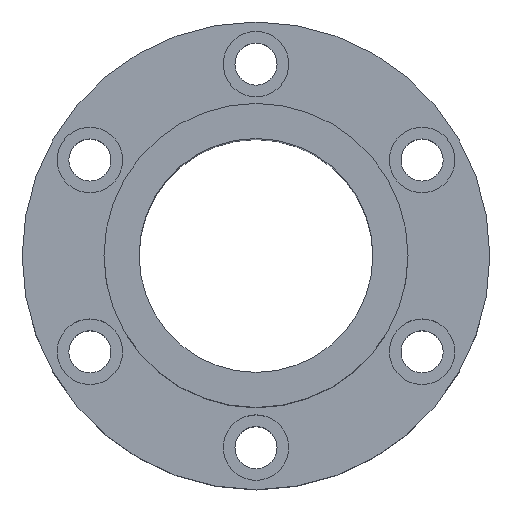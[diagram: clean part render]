
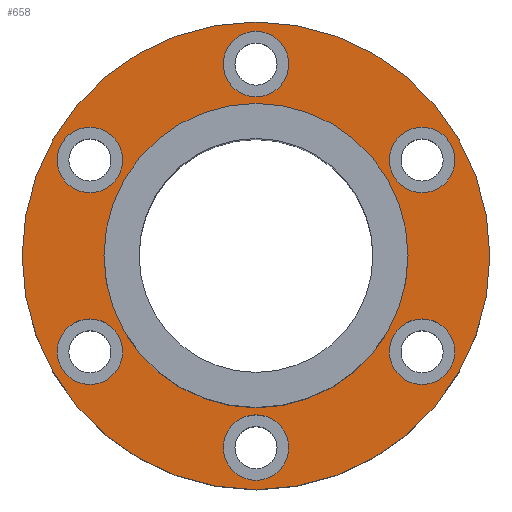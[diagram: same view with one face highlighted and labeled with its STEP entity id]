
A CAD part, top view. The second image highlights one B-rep face of the part: STEP entity #658.
In plain terms, the highlighted planar face has unit normal (0, 0, 1).
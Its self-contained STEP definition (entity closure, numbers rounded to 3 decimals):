
#1=CARTESIAN_POINT('',(0.,0.,17.5));
#2=DIRECTION('',(0.,0.,1.));
#3=DIRECTION('',(1.,0.,0.));
#4=AXIS2_PLACEMENT_3D('',#1,#2,#3);
#6=CARTESIAN_POINT('',(0.,0.,17.5));
#7=DIRECTION('',(0.,0.,1.));
#8=DIRECTION('',(-1.,0.,0.));
#9=AXIS2_PLACEMENT_3D('',#6,#7,#8);
#11=CARTESIAN_POINT('',(35.507,-20.5,17.5));
#12=DIRECTION('',(0.,0.,-1.));
#13=DIRECTION('',(-0.5,-0.866,0.));
#14=AXIS2_PLACEMENT_3D('',#11,#12,#13);
#16=CARTESIAN_POINT('',(35.507,-20.5,17.5));
#17=DIRECTION('',(0.,0.,-1.));
#18=DIRECTION('',(0.5,0.866,0.));
#19=AXIS2_PLACEMENT_3D('',#16,#17,#18);
#21=CARTESIAN_POINT('',(-35.507,-20.5,17.5));
#22=DIRECTION('',(0.,0.,-1.));
#23=DIRECTION('',(-0.5,0.866,0.));
#24=AXIS2_PLACEMENT_3D('',#21,#22,#23);
#26=CARTESIAN_POINT('',(-35.507,-20.5,17.5));
#27=DIRECTION('',(0.,0.,-1.));
#28=DIRECTION('',(0.5,-0.866,0.));
#29=AXIS2_PLACEMENT_3D('',#26,#27,#28);
#31=CARTESIAN_POINT('',(0.,41.,17.5));
#32=DIRECTION('',(0.,0.,-1.));
#33=DIRECTION('',(1.,0.,0.));
#34=AXIS2_PLACEMENT_3D('',#31,#32,#33);
#36=CARTESIAN_POINT('',(0.,41.,17.5));
#37=DIRECTION('',(0.,0.,-1.));
#38=DIRECTION('',(-1.,0.,0.));
#39=AXIS2_PLACEMENT_3D('',#36,#37,#38);
#41=CARTESIAN_POINT('',(0.,0.,17.5));
#42=DIRECTION('',(0.,0.,-1.));
#43=DIRECTION('',(1.,0.,0.));
#44=AXIS2_PLACEMENT_3D('',#41,#42,#43);
#46=CARTESIAN_POINT('',(0.,0.,17.5));
#47=DIRECTION('',(0.,0.,-1.));
#48=DIRECTION('',(-1.,0.,0.));
#49=AXIS2_PLACEMENT_3D('',#46,#47,#48);
#51=CARTESIAN_POINT('',(-35.507,20.5,17.5));
#52=DIRECTION('',(0.,0.,-1.));
#53=DIRECTION('',(0.5,0.866,0.));
#54=AXIS2_PLACEMENT_3D('',#51,#52,#53);
#56=CARTESIAN_POINT('',(-35.507,20.5,17.5));
#57=DIRECTION('',(0.,0.,-1.));
#58=DIRECTION('',(-0.5,-0.866,0.));
#59=AXIS2_PLACEMENT_3D('',#56,#57,#58);
#61=CARTESIAN_POINT('',(0.,-41.,17.5));
#62=DIRECTION('',(0.,0.,-1.));
#63=DIRECTION('',(-1.,0.,0.));
#64=AXIS2_PLACEMENT_3D('',#61,#62,#63);
#66=CARTESIAN_POINT('',(0.,-41.,17.5));
#67=DIRECTION('',(0.,0.,-1.));
#68=DIRECTION('',(1.,0.,0.));
#69=AXIS2_PLACEMENT_3D('',#66,#67,#68);
#71=CARTESIAN_POINT('',(35.507,20.5,17.5));
#72=DIRECTION('',(0.,0.,-1.));
#73=DIRECTION('',(0.5,-0.866,0.));
#74=AXIS2_PLACEMENT_3D('',#71,#72,#73);
#76=CARTESIAN_POINT('',(35.507,20.5,17.5));
#77=DIRECTION('',(0.,0.,-1.));
#78=DIRECTION('',(-0.5,0.866,0.));
#79=AXIS2_PLACEMENT_3D('',#76,#77,#78);
#533=CARTESIAN_POINT('',(-50.,0.,17.5));
#535=VERTEX_POINT('',#533);
#537=CARTESIAN_POINT('',(50.,0.,17.5));
#539=VERTEX_POINT('',#537);
#541=CARTESIAN_POINT('',(7.,41.,17.5));
#543=VERTEX_POINT('',#541);
#545=CARTESIAN_POINT('',(-7.,41.,17.5));
#547=VERTEX_POINT('',#545);
#549=CARTESIAN_POINT('',(-32.007,26.562,17.5));
#551=VERTEX_POINT('',#549);
#553=CARTESIAN_POINT('',(-39.007,14.438,17.5));
#555=VERTEX_POINT('',#553);
#557=CARTESIAN_POINT('',(-39.007,-14.438,17.5));
#559=VERTEX_POINT('',#557);
#561=CARTESIAN_POINT('',(-32.007,-26.562,17.5));
#563=VERTEX_POINT('',#561);
#565=CARTESIAN_POINT('',(-7.,-41.,17.5));
#567=VERTEX_POINT('',#565);
#569=CARTESIAN_POINT('',(7.,-41.,17.5));
#571=VERTEX_POINT('',#569);
#573=CARTESIAN_POINT('',(32.007,-26.562,17.5));
#575=VERTEX_POINT('',#573);
#577=CARTESIAN_POINT('',(39.007,-14.438,17.5));
#579=VERTEX_POINT('',#577);
#581=CARTESIAN_POINT('',(39.007,14.438,17.5));
#583=VERTEX_POINT('',#581);
#585=CARTESIAN_POINT('',(32.007,26.562,17.5));
#587=VERTEX_POINT('',#585);
#598=CARTESIAN_POINT('',(32.5,0.,17.5));
#600=VERTEX_POINT('',#598);
#602=CARTESIAN_POINT('',(-32.5,0.,17.5));
#604=VERTEX_POINT('',#602);
#605=CARTESIAN_POINT('',(0.,0.,17.5));
#606=DIRECTION('',(0.,0.,1.));
#607=DIRECTION('',(1.,0.,0.));
#608=AXIS2_PLACEMENT_3D('',#605,#606,#607);
#609=PLANE('',#608);
#611=ORIENTED_EDGE('',*,*,#610,.F.);
#613=ORIENTED_EDGE('',*,*,#612,.F.);
#614=EDGE_LOOP('',(#611,#613));
#615=FACE_OUTER_BOUND('',#614,.F.);
#617=ORIENTED_EDGE('',*,*,#616,.F.);
#619=ORIENTED_EDGE('',*,*,#618,.F.);
#620=EDGE_LOOP('',(#617,#619));
#621=FACE_BOUND('',#620,.F.);
#623=ORIENTED_EDGE('',*,*,#622,.F.);
#625=ORIENTED_EDGE('',*,*,#624,.F.);
#626=EDGE_LOOP('',(#623,#625));
#627=FACE_BOUND('',#626,.F.);
#629=ORIENTED_EDGE('',*,*,#628,.F.);
#631=ORIENTED_EDGE('',*,*,#630,.F.);
#632=EDGE_LOOP('',(#629,#631));
#633=FACE_BOUND('',#632,.F.);
#635=ORIENTED_EDGE('',*,*,#634,.F.);
#637=ORIENTED_EDGE('',*,*,#636,.F.);
#638=EDGE_LOOP('',(#635,#637));
#639=FACE_BOUND('',#638,.F.);
#641=ORIENTED_EDGE('',*,*,#640,.F.);
#643=ORIENTED_EDGE('',*,*,#642,.F.);
#644=EDGE_LOOP('',(#641,#643));
#645=FACE_BOUND('',#644,.F.);
#647=ORIENTED_EDGE('',*,*,#646,.F.);
#649=ORIENTED_EDGE('',*,*,#648,.F.);
#650=EDGE_LOOP('',(#647,#649));
#651=FACE_BOUND('',#650,.F.);
#653=ORIENTED_EDGE('',*,*,#652,.F.);
#655=ORIENTED_EDGE('',*,*,#654,.F.);
#656=EDGE_LOOP('',(#653,#655));
#657=FACE_BOUND('',#656,.F.);
#658=ADVANCED_FACE('',(#615,#621,#627,#633,#639,#645,#651,#657),#609,.T.);
#5=CIRCLE('',#4,50.);
#10=CIRCLE('',#9,50.);
#15=CIRCLE('',#14,7.);
#20=CIRCLE('',#19,7.);
#25=CIRCLE('',#24,7.);
#30=CIRCLE('',#29,7.);
#35=CIRCLE('',#34,7.);
#40=CIRCLE('',#39,7.);
#45=CIRCLE('',#44,32.5);
#50=CIRCLE('',#49,32.5);
#55=CIRCLE('',#54,7.);
#60=CIRCLE('',#59,7.);
#65=CIRCLE('',#64,7.);
#70=CIRCLE('',#69,7.);
#75=CIRCLE('',#74,7.);
#80=CIRCLE('',#79,7.);
#610=EDGE_CURVE('',#539,#535,#5,.T.);
#612=EDGE_CURVE('',#535,#539,#10,.T.);
#616=EDGE_CURVE('',#575,#579,#15,.T.);
#618=EDGE_CURVE('',#579,#575,#20,.T.);
#622=EDGE_CURVE('',#559,#563,#25,.T.);
#624=EDGE_CURVE('',#563,#559,#30,.T.);
#628=EDGE_CURVE('',#543,#547,#35,.T.);
#630=EDGE_CURVE('',#547,#543,#40,.T.);
#634=EDGE_CURVE('',#600,#604,#45,.T.);
#636=EDGE_CURVE('',#604,#600,#50,.T.);
#640=EDGE_CURVE('',#551,#555,#55,.T.);
#642=EDGE_CURVE('',#555,#551,#60,.T.);
#646=EDGE_CURVE('',#567,#571,#65,.T.);
#648=EDGE_CURVE('',#571,#567,#70,.T.);
#652=EDGE_CURVE('',#583,#587,#75,.T.);
#654=EDGE_CURVE('',#587,#583,#80,.T.);
